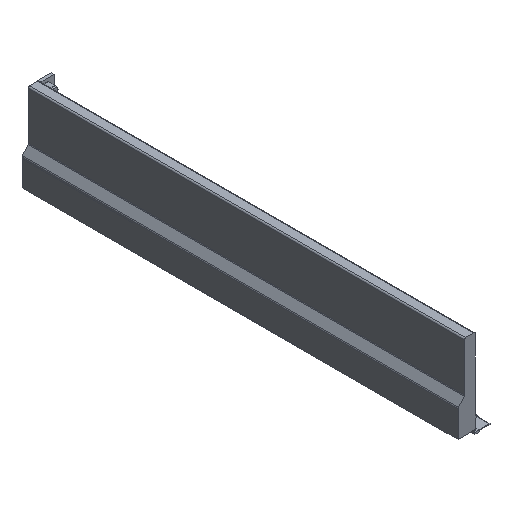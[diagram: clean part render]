
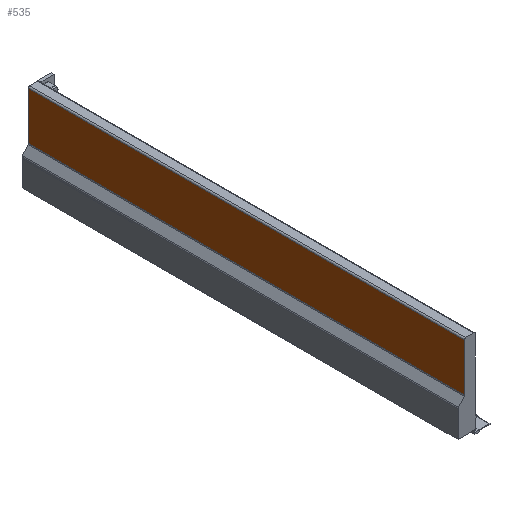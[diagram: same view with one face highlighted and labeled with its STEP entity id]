
A CAD part, isometric view. The second image highlights one B-rep face of the part: STEP entity #535.
In plain terms, the highlighted planar face has unit normal (-1, 0, 0).
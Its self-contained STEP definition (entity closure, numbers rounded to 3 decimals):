
#102 = EDGE_CURVE ( 'NONE', #1510, #1544, #455, .T. ) ;
#103 = EDGE_CURVE ( 'NONE', #1531, #1581, #463, .T. ) ;
#106 = EDGE_CURVE ( 'NONE', #1544, #1581, #461, .T. ) ;
#158 = EDGE_CURVE ( 'NONE', #1510, #1531, #1481, .T. ) ;
#350 = AXIS2_PLACEMENT_3D ( 'NONE', #1122, #1123, #1124 ) ;
#416 = VECTOR ( 'NONE', #1659, 1000. ) ;
#426 = VECTOR ( 'NONE', #1667, 1000. ) ;
#450 = VECTOR ( 'NONE', #1672, 1000. ) ;
#455 = LINE ( 'NONE', #1673, #450 ) ;
#461 = LINE ( 'NONE', #1660, #416 ) ;
#463 = LINE ( 'NONE', #1674, #426 ) ;
#535 = ADVANCED_FACE ( 'NONE', ( #1232 ), #1118, .T. ) ;
#565 = CARTESIAN_POINT ( 'NONE',  ( 6.5, 144.577, 34.728 ) ) ;
#567 = DIRECTION ( 'NONE',  ( 0., -1., 0. ) ) ;
#1069 = CARTESIAN_POINT ( 'NONE',  ( 6.5, 597., 34.728 ) ) ;
#1077 = CARTESIAN_POINT ( 'NONE',  ( 6.5, 0., 34.728 ) ) ;
#1085 = CARTESIAN_POINT ( 'NONE',  ( 6.5, 597., 100. ) ) ;
#1091 = CARTESIAN_POINT ( 'NONE',  ( 6.5, 0., 100. ) ) ;
#1118 = PLANE ( 'NONE',  #350 ) ;
#1122 = CARTESIAN_POINT ( 'NONE',  ( 6.5, 144.577, 34.728 ) ) ;
#1123 = DIRECTION ( 'NONE',  ( -1., 0., 0. ) ) ;
#1124 = DIRECTION ( 'NONE',  ( 0., 1., 0. ) ) ;
#1232 = FACE_OUTER_BOUND ( 'NONE', #2237, .T. ) ;
#1479 = VECTOR ( 'NONE', #567, 1000. ) ;
#1481 = LINE ( 'NONE', #565, #1479 ) ;
#1510 = VERTEX_POINT ( 'NONE', #1069 ) ;
#1531 = VERTEX_POINT ( 'NONE', #1077 ) ;
#1544 = VERTEX_POINT ( 'NONE', #1085 ) ;
#1581 = VERTEX_POINT ( 'NONE', #1091 ) ;
#1659 = DIRECTION ( 'NONE',  ( 0., -1., 0. ) ) ;
#1660 = CARTESIAN_POINT ( 'NONE',  ( 6.5, 144.577, 100. ) ) ;
#1667 = DIRECTION ( 'NONE',  ( 0., 0., 1. ) ) ;
#1672 = DIRECTION ( 'NONE',  ( 0., 0., 1. ) ) ;
#1673 = CARTESIAN_POINT ( 'NONE',  ( 6.5, 597., 34.728 ) ) ;
#1674 = CARTESIAN_POINT ( 'NONE',  ( 6.5, 0., 34.728 ) ) ;
#2054 = ORIENTED_EDGE ( 'NONE', *, *, #102, .F. ) ;
#2056 = ORIENTED_EDGE ( 'NONE', *, *, #103, .T. ) ;
#2137 = ORIENTED_EDGE ( 'NONE', *, *, #106, .F. ) ;
#2150 = ORIENTED_EDGE ( 'NONE', *, *, #158, .T. ) ;
#2237 = EDGE_LOOP ( 'NONE', ( #2150, #2056, #2137, #2054 ) ) ;
